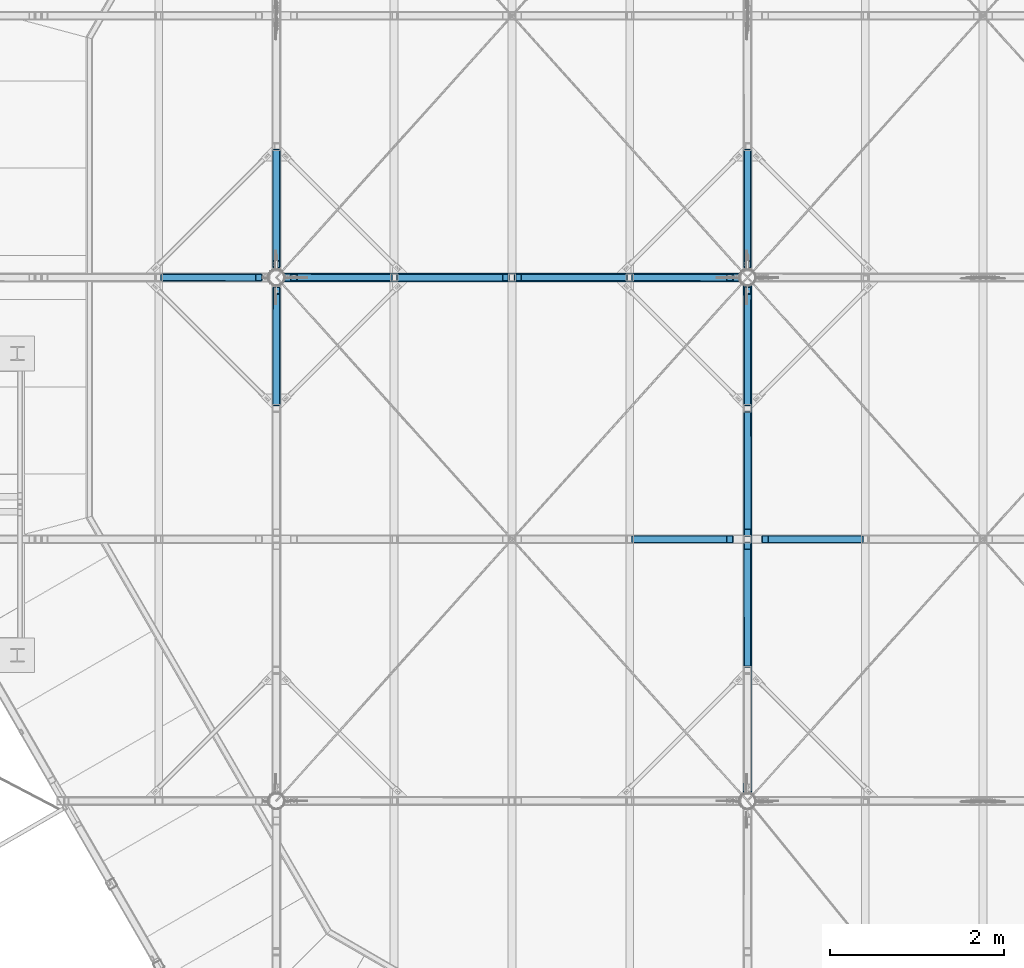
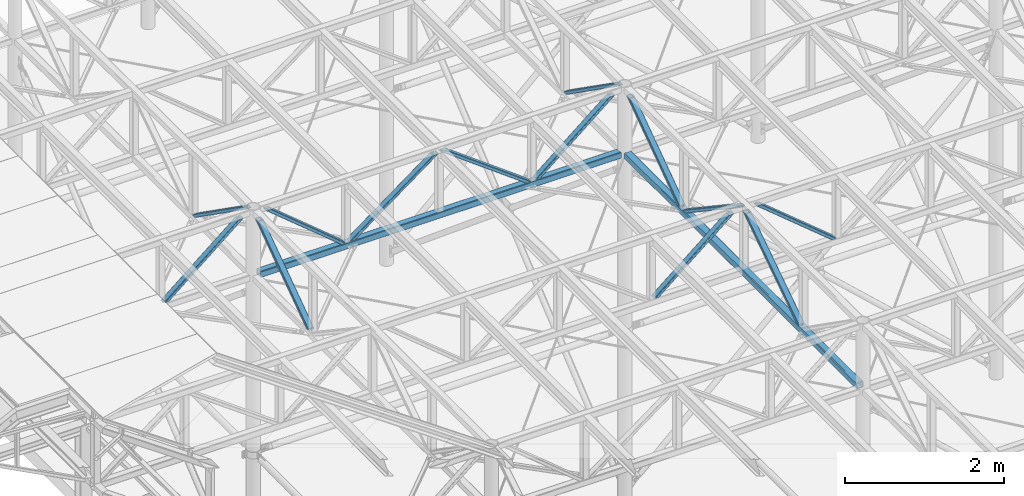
# One storey, part 44 of 132: 15 discrete accessories, 8 elements without a shape of their own.
"""IFC2X3 building model written with IfcOpenShell, lengths in millimetres."""

from ifc_helpers import new_model, si_unit, frame, origin_with_axes, origin_2d_with_axis, place, context, subcontext, project, spatial, hollow_rectangle, circle, extrude, boolean, halfspace, material, type_object, element, aggregate, save


model = new_model("IFC2X3")

# Units and contexts
model_context = context("Model", 3, precision=1e-05, world=origin_with_axes())
body_context = subcontext(model_context, "Body", "Model", "MODEL_VIEW")
ifc_project = project(units=[si_unit("LENGTHUNIT", "METRE", prefix="MILLI"), si_unit("AREAUNIT", "SQUARE_METRE"), si_unit("VOLUMEUNIT", "CUBIC_METRE"), si_unit("MASSUNIT", "GRAM", prefix="KILO"), si_unit("TIMEUNIT", "SECOND"), si_unit("PLANEANGLEUNIT", "RADIAN"), si_unit("SOLIDANGLEUNIT", "STERADIAN"), si_unit("THERMODYNAMICTEMPERATUREUNIT", "DEGREE_CELSIUS"), si_unit("LUMINOUSINTENSITYUNIT", "LUMEN")], contexts=[model_context])

# Site, building, storey
site_placement = place(None, origin_with_axes())
site = spatial("IfcSite", under=ifc_project, at=site_placement, Name="Budowa", CompositionType="ELEMENT")
building_placement = place(site_placement, origin_with_axes())
building = spatial("IfcBuilding", under=site, at=building_placement, Name="Undefined", CompositionType="ELEMENT")
storey_placement = place(building_placement, origin_with_axes())
storey = spatial("IfcBuildingStorey", under=building, at=storey_placement, Name="Undefined", CompositionType="ELEMENT", Elevation=0.0)

# Assembly, discrete accessory
assembly_1_placement = place(storey_placement, origin_with_axes())
assembly_1 = element("IfcElementAssembly", 1, at=assembly_1_placement, inside=storey, Name="Steel Assembly", AssemblyPlace="NOTDEFINED", PredefinedType="RIGID_FRAME")
ifc_material = material(Name="STEEL/S235")
discrete_accessory_type = type_object("IfcDiscreteAccessoryType", Name="BEAM")
discrete_accessory_1_placement = place(assembly_1_placement, frame((3884.0999999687, 12000.0000000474, 13830.0000000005), z_axis=(0.0, -1.0, 0.0), x_axis=(-0.77030791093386, 0.0, -0.637672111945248)))
solid_1 = boolean("DIFFERENCE", boolean("DIFFERENCE", extrude(hollow_rectangle(XDim=90.0, YDim=90.0, WallThickness=6.0, InnerFilletRadius=6.0, OuterFilletRadius=12.0, at=origin_2d_with_axis()), frame((1536.32046276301, -38.5153958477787, 3.71073838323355e-10), z_axis=(-0.637672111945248, -0.770307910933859, 0.0), x_axis=(0.0, 0.0, 1.0)), (0.0, 0.0, 1.0), 900.0), halfspace(frame((766.012551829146, 599.156716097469, 3.71073838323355e-10), z_axis=(-0.637672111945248, -0.770307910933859, 0.0), x_axis=(0.77030791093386, -0.637672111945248, 0.0)), True)), halfspace(frame((192.107651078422, -94.1204037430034, 3.71073838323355e-10), z_axis=(0.637672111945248, 0.770307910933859, 0.0), x_axis=(0.77030791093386, -0.637672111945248, 0.0)), True))
discrete_accessory_1 = element("IfcDiscreteAccessory", 2, at=discrete_accessory_1_placement, type_object=discrete_accessory_type, material=ifc_material, Name="BEAM", ObjectType="RHS90*50*5", context=body_context, shape_type="CSG", body=[
    boolean("DIFFERENCE", boolean("DIFFERENCE", boolean("DIFFERENCE", extrude(hollow_rectangle(XDim=50.0, YDim=90.0, WallThickness=5.0, InnerFilletRadius=7.5, OuterFilletRadius=12.5, at=origin_2d_with_axis()), frame((1532.27723418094, -9.9455317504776e-13, 0.0), z_axis=(-1.0, 0.0, 0.0), x_axis=(0.0, -1.0, 0.0)), (0.0, 0.0, 1.0), 1496.35), solid_1), halfspace(frame((1536.3204623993, -38.515395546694, 1000.0), z_axis=(-0.637672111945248, -0.770307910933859, 0.0), x_axis=(0.77030791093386, -0.637672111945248, 0.0)), True)), halfspace(frame((31.8836055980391, 38.5153955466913, 1000.0), z_axis=(0.637672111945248, 0.770307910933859, 0.0), x_axis=(-0.770307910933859, 0.637672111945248, 0.0)), True)),
])
aggregate(assembly_1, [discrete_accessory_1])

assembly_2_placement = place(storey_placement, origin_with_axes())
assembly_2 = element("IfcElementAssembly", 3, at=assembly_2_placement, inside=storey, Name="Steel Assembly", AssemblyPlace="NOTDEFINED", PredefinedType="RIGID_FRAME")
discrete_accessory_2_placement = place(assembly_2_placement, frame((9565.99999995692, 9000.00000004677, 13830.0), z_axis=(0.0, -1.0, 0.0), x_axis=(0.770567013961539, 0.0, -0.637358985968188)))
solid_2 = boolean("DIFFERENCE", boolean("DIFFERENCE", extrude(hollow_rectangle(XDim=90.0, YDim=90.0, WallThickness=6.0, InnerFilletRadius=6.0, OuterFilletRadius=12.0, at=origin_2d_with_axis()), frame((1537.1065565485, 38.528350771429, -6.22094376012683e-10), z_axis=(-0.637358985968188, 0.770567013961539, 0.0), x_axis=(-0.770567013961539, -0.637358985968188, 0.0)), (0.0, 0.0, 1.0), 900.0), halfspace(frame((1537.1065565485, 38.5283507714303, 999.999999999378), z_axis=(-0.637358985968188, 0.770567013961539, 0.0), x_axis=(-0.770567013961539, -0.637358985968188, 0.0)), True)), halfspace(frame((963.483469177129, 732.038663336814, 999.999999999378), z_axis=(0.637358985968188, -0.770567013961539, 0.0), x_axis=(0.770567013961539, 0.637358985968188, 0.0)), True))
discrete_accessory_2 = element("IfcDiscreteAccessory", 4, at=discrete_accessory_2_placement, type_object=discrete_accessory_type, material=ifc_material, Name="BEAM", ObjectType="RHS90*50*5", context=body_context, shape_type="CSG", body=[
    boolean("DIFFERENCE", boolean("DIFFERENCE", boolean("DIFFERENCE", extrude(hollow_rectangle(XDim=50.0, YDim=90.0, WallThickness=5.0, InnerFilletRadius=7.5, OuterFilletRadius=12.5, at=origin_2d_with_axis()), frame((1533.07734352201, 2.27373675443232e-12, 0.0), z_axis=(-1.0, 0.0, 0.0), x_axis=(0.0, -1.0, 0.0)), (0.0, 0.0, 1.0), 1497.18), solid_2), halfspace(frame((1537.1065565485, 38.5283507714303, 999.999999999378), z_axis=(-0.637358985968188, 0.770567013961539, 0.0), x_axis=(-0.770567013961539, -0.637358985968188, 0.0)), True)), halfspace(frame((31.867949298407, -38.5283506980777, 1000.0), z_axis=(0.637358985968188, -0.770567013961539, 0.0), x_axis=(0.770567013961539, 0.637358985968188, 0.0)), True)),
])
aggregate(assembly_2, [discrete_accessory_2])

assembly_3_placement = place(storey_placement, origin_with_axes())
assembly_3 = element("IfcElementAssembly", 5, at=assembly_3_placement, inside=storey, Name="Steel Assembly", AssemblyPlace="NOTDEFINED", PredefinedType="RIGID_FRAME")
discrete_accessory_3_placement = place(assembly_3_placement, frame((9283.99999993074, 9000.00000004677, 13830.0), z_axis=(0.0, -1.0, 0.0), x_axis=(-0.770567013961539, 0.0, -0.637358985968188)))
solid_3 = boolean("DIFFERENCE", boolean("DIFFERENCE", extrude(hollow_rectangle(XDim=90.0, YDim=90.0, WallThickness=6.0, InnerFilletRadius=6.0, OuterFilletRadius=12.0, at=origin_2d_with_axis()), frame((1537.1065565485, -38.5283507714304, -6.22094376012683e-10), z_axis=(-0.637358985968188, -0.770567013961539, 0.0), x_axis=(0.770567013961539, -0.637358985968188, 0.0)), (0.0, 0.0, 1.0), 900.0), halfspace(frame((1537.1065565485, -38.5283507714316, 999.999999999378), z_axis=(-0.637358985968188, -0.770567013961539, 0.0), x_axis=(0.770567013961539, -0.637358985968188, 0.0)), True)), halfspace(frame((963.483469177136, -732.038663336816, 999.999999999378), z_axis=(0.637358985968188, 0.770567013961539, 0.0), x_axis=(-0.770567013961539, 0.637358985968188, 0.0)), True))
discrete_accessory_3 = element("IfcDiscreteAccessory", 6, at=discrete_accessory_3_placement, type_object=discrete_accessory_type, material=ifc_material, Name="BEAM", ObjectType="RHS90*50*5", context=body_context, shape_type="CSG", body=[
    boolean("DIFFERENCE", boolean("DIFFERENCE", boolean("DIFFERENCE", extrude(hollow_rectangle(XDim=50.0, YDim=90.0, WallThickness=5.0, InnerFilletRadius=7.5, OuterFilletRadius=12.5, at=origin_2d_with_axis()), frame((1533.07734352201, 2.27373675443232e-12, 0.0), z_axis=(-1.0, 0.0, 0.0), x_axis=(0.0, -1.0, 0.0)), (0.0, 0.0, 1.0), 1497.18), solid_3), halfspace(frame((1537.1065565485, -38.5283507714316, 999.999999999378), z_axis=(-0.637358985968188, -0.770567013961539, 0.0), x_axis=(0.770567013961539, -0.637358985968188, 0.0)), True)), halfspace(frame((31.867949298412, 38.52835069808, 1000.0), z_axis=(0.637358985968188, 0.770567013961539, 0.0), x_axis=(-0.770567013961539, 0.637358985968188, 0.0)), True)),
])
aggregate(assembly_3, [discrete_accessory_3])

assembly_4_placement = place(storey_placement, origin_with_axes())
assembly_4 = element("IfcElementAssembly", 7, at=assembly_4_placement, inside=storey, Name="Steel Assembly", AssemblyPlace="NOTDEFINED", PredefinedType="RIGID_FRAME")
discrete_accessory_4_placement = place(assembly_4_placement, frame((4024.99999991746, 13499.8000000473, 12829.9999999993), z_axis=(1.0, 0.0, 0.0), x_axis=(0.0, -0.817796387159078, 0.575507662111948)))
solid_4 = boolean("DIFFERENCE", boolean("DIFFERENCE", extrude(hollow_rectangle(XDim=90.0, YDim=90.0, WallThickness=6.0, InnerFilletRadius=6.0, OuterFilletRadius=12.0, at=origin_2d_with_axis()), frame((28.6118238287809, -41.0049208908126, 2.20825313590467e-09), z_axis=(0.575507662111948, -0.817796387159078, 0.0), x_axis=(0.817796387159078, 0.575507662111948, 0.0)), (0.0, 0.0, 1.0), 900.0), halfspace(frame((28.6118238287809, -41.0049208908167, 1000.00000000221), z_axis=(0.575507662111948, -0.817796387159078, 0.0), x_axis=(0.817796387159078, 0.575507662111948, 0.0)), True)), halfspace(frame((546.568719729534, -777.021669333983, 1000.00000000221), z_axis=(-0.57550766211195, 0.817796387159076, 0.0), x_axis=(-0.817796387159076, -0.57550766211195, 0.0)), True))
discrete_accessory_4 = element("IfcDiscreteAccessory", 8, at=discrete_accessory_4_placement, type_object=discrete_accessory_type, material=ifc_material, Name="BEAM", ObjectType="RHS90*50*5", context=body_context, shape_type="CSG", body=[
    boolean("DIFFERENCE", boolean("DIFFERENCE", boolean("DIFFERENCE", extrude(hollow_rectangle(XDim=50.0, YDim=90.0, WallThickness=5.0, InnerFilletRadius=7.5, OuterFilletRadius=12.5, at=origin_2d_with_axis()), frame((1708.27858753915, 0.0, 0.0), z_axis=(-1.0, 0.0, 0.0), x_axis=(0.0, -1.0, 0.0)), (0.0, 0.0, 1.0), 1678.96), solid_4), halfspace(frame((1708.8209441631, 40.8898193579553, 1000.0), z_axis=(-0.57550766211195, 0.817796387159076, 0.0), x_axis=(-0.817796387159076, -0.57550766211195, 0.0)), True)), halfspace(frame((28.7753831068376, -40.8898193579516, 1000.0), z_axis=(0.575507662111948, -0.817796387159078, 0.0), x_axis=(0.817796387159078, 0.575507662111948, 0.0)), True)),
])
aggregate(assembly_4, [discrete_accessory_4])

assembly_5_placement = place(storey_placement, origin_with_axes())
assembly_5 = element("IfcElementAssembly", 9, at=assembly_5_placement, inside=storey, Name="Steel Assembly", AssemblyPlace="NOTDEFINED", PredefinedType="RIGID_FRAME")
discrete_accessory_5_placement = place(assembly_5_placement, frame((4024.99999991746, 10500.0000000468, 12829.9999999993), z_axis=(1.0, 0.0, 0.0), x_axis=(0.0, 0.817796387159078, 0.575507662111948)))
solid_5 = boolean("DIFFERENCE", boolean("DIFFERENCE", extrude(hollow_rectangle(XDim=90.0, YDim=90.0, WallThickness=6.0, InnerFilletRadius=6.0, OuterFilletRadius=12.0, at=origin_2d_with_axis()), frame((28.7753831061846, 40.8898193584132, 2.20825313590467e-09), z_axis=(0.575507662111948, 0.817796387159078, 0.0), x_axis=(-0.817796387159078, 0.575507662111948, 0.0)), (0.0, 0.0, 1.0), 900.0), halfspace(frame((28.7753831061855, 40.8898193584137, 1000.00000000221), z_axis=(0.575507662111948, 0.817796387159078, 0.0), x_axis=(-0.817796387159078, 0.575507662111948, 0.0)), True)), halfspace(frame((546.732279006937, 776.906567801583, 1000.00000000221), z_axis=(-0.575507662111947, -0.817796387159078, 0.0), x_axis=(0.817796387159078, -0.575507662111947, 0.0)), True))
discrete_accessory_5 = element("IfcDiscreteAccessory", 10, at=discrete_accessory_5_placement, type_object=discrete_accessory_type, material=ifc_material, Name="BEAM", ObjectType="RHS90*50*5", context=body_context, shape_type="CSG", body=[
    boolean("DIFFERENCE", boolean("DIFFERENCE", boolean("DIFFERENCE", extrude(hollow_rectangle(XDim=50.0, YDim=90.0, WallThickness=5.0, InnerFilletRadius=7.5, OuterFilletRadius=12.5, at=origin_2d_with_axis()), frame((1708.11339266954, 0.0, 0.0), z_axis=(-1.0, 0.0, 0.0), x_axis=(0.0, -1.0, 0.0)), (0.0, 0.0, 1.0), 1678.63), solid_5), halfspace(frame((1708.8209441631, -40.8898193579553, 1000.0), z_axis=(-0.575507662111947, -0.817796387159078, 0.0), x_axis=(0.817796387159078, -0.575507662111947, 0.0)), True)), halfspace(frame((28.7753831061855, 40.8898193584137, 1000.00000000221), z_axis=(0.575507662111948, 0.817796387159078, 0.0), x_axis=(-0.817796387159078, 0.575507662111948, 0.0)), True)),
])
aggregate(assembly_5, [discrete_accessory_5])

assembly_6_placement = place(storey_placement, origin_with_axes())
assembly_6 = element("IfcElementAssembly", 11, at=assembly_6_placement, inside=storey, Name="Steel Assembly", AssemblyPlace="NOTDEFINED", PredefinedType="RIGID_FRAME")
discrete_accessory_6_placement = place(assembly_6_placement, frame((9424.99999994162, 13499.8000000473, 12829.9999999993), z_axis=(1.0, 0.0, 0.0), x_axis=(0.0, -0.817796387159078, 0.575507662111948)))
solid_6 = boolean("DIFFERENCE", boolean("DIFFERENCE", extrude(hollow_rectangle(XDim=90.0, YDim=90.0, WallThickness=6.0, InnerFilletRadius=6.0, OuterFilletRadius=12.0, at=origin_2d_with_axis()), frame((28.6118238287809, -41.0049208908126, 2.20825313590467e-09), z_axis=(0.575507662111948, -0.817796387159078, 0.0), x_axis=(0.817796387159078, 0.575507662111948, 0.0)), (0.0, 0.0, 1.0), 900.0), halfspace(frame((28.6118238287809, -41.0049208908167, 1000.00000000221), z_axis=(0.575507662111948, -0.817796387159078, 0.0), x_axis=(0.817796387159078, 0.575507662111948, 0.0)), True)), halfspace(frame((546.568719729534, -777.021669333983, 1000.00000000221), z_axis=(-0.57550766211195, 0.817796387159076, 0.0), x_axis=(-0.817796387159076, -0.57550766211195, 0.0)), True))
discrete_accessory_6 = element("IfcDiscreteAccessory", 12, at=discrete_accessory_6_placement, type_object=discrete_accessory_type, material=ifc_material, Name="BEAM", ObjectType="RHS90*50*5", context=body_context, shape_type="CSG", body=[
    boolean("DIFFERENCE", boolean("DIFFERENCE", boolean("DIFFERENCE", extrude(hollow_rectangle(XDim=50.0, YDim=90.0, WallThickness=5.0, InnerFilletRadius=7.5, OuterFilletRadius=12.5, at=origin_2d_with_axis()), frame((1708.27858753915, 0.0, 0.0), z_axis=(-1.0, 0.0, 0.0), x_axis=(0.0, -1.0, 0.0)), (0.0, 0.0, 1.0), 1678.96), solid_6), halfspace(frame((1708.8209441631, 40.8898193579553, 1000.0), z_axis=(-0.57550766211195, 0.817796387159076, 0.0), x_axis=(-0.817796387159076, -0.57550766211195, 0.0)), True)), halfspace(frame((28.7753831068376, -40.8898193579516, 1000.0), z_axis=(0.575507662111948, -0.817796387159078, 0.0), x_axis=(0.817796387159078, 0.575507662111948, 0.0)), True)),
])
aggregate(assembly_6, [discrete_accessory_6])

# Assembly, discrete accessories
assembly_7_placement = place(storey_placement, origin_with_axes())
assembly_7 = element("IfcElementAssembly", 13, at=assembly_7_placement, inside=storey, Name="Steel Assembly", AssemblyPlace="NOTDEFINED", PredefinedType="RIGID_FRAME")
discrete_accessory_7_placement = place(assembly_7_placement, frame((9424.99999994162, 10500.0000000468, 12829.9999999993), z_axis=(1.0, 0.0, 0.0), x_axis=(0.0, 0.817796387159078, 0.575507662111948)))
solid_7 = boolean("DIFFERENCE", boolean("DIFFERENCE", extrude(hollow_rectangle(XDim=90.0, YDim=90.0, WallThickness=6.0, InnerFilletRadius=6.0, OuterFilletRadius=12.0, at=origin_2d_with_axis()), frame((28.7753831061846, 40.8898193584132, 2.20825313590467e-09), z_axis=(0.575507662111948, 0.817796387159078, 0.0), x_axis=(-0.817796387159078, 0.575507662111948, 0.0)), (0.0, 0.0, 1.0), 900.0), halfspace(frame((28.7753831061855, 40.8898193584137, 1000.00000000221), z_axis=(0.575507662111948, 0.817796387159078, 0.0), x_axis=(-0.817796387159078, 0.575507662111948, 0.0)), True)), halfspace(frame((546.732279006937, 776.906567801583, 1000.00000000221), z_axis=(-0.575507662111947, -0.817796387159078, 0.0), x_axis=(0.817796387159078, -0.575507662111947, 0.0)), True))
discrete_accessory_7 = element("IfcDiscreteAccessory", 14, at=discrete_accessory_7_placement, type_object=discrete_accessory_type, material=ifc_material, Name="BEAM", ObjectType="RHS90*50*5", context=body_context, shape_type="CSG", body=[
    boolean("DIFFERENCE", boolean("DIFFERENCE", boolean("DIFFERENCE", extrude(hollow_rectangle(XDim=50.0, YDim=90.0, WallThickness=5.0, InnerFilletRadius=7.5, OuterFilletRadius=12.5, at=origin_2d_with_axis()), frame((1708.11339266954, 0.0, 0.0), z_axis=(-1.0, 0.0, 0.0), x_axis=(0.0, -1.0, 0.0)), (0.0, 0.0, 1.0), 1678.63), solid_7), halfspace(frame((1708.8209441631, -40.8898193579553, 1000.0), z_axis=(-0.575507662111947, -0.817796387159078, 0.0), x_axis=(0.817796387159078, -0.575507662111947, 0.0)), True)), halfspace(frame((28.7753831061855, 40.8898193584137, 1000.00000000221), z_axis=(0.575507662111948, 0.817796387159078, 0.0), x_axis=(-0.817796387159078, 0.575507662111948, 0.0)), True)),
])
discrete_accessory_8_placement = place(assembly_7_placement, frame((9424.99999994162, 10499.8000000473, 12829.9999999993), z_axis=(1.0, 0.0, 0.0), x_axis=(0.0, -0.832050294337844, 0.554700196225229)))
solid_8 = boolean("DIFFERENCE", boolean("DIFFERENCE", extrude(hollow_rectangle(XDim=90.0, YDim=90.0, WallThickness=6.0, InnerFilletRadius=6.0, OuterFilletRadius=12.0, at=origin_2d_with_axis()), frame((27.5685997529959, -41.7134547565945, 2.20825313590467e-09), z_axis=(0.554700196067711, -0.832050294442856, 1.11090858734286e-10), x_axis=(0.832050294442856, 0.554700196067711, 1.66635594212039e-10)), (0.0, 0.0, 1.0), 900.0), halfspace(frame((27.5685997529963, -41.7134547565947, 1000.00000000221), z_axis=(0.554700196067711, -0.832050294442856, 1.11090858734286e-10), x_axis=(0.832050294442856, 0.554700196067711, 1.66635594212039e-10)), True)), halfspace(frame((526.798776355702, -790.558719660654, 1000.00000000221), z_axis=(-0.554700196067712, 0.832050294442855, -1.1109021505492e-10), x_axis=(-0.832050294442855, -0.554700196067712, -1.66634890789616e-10)), True))
solid_9 = boolean("DIFFERENCE", boolean("DIFFERENCE", extrude(hollow_rectangle(XDim=90.0, YDim=90.0, WallThickness=6.0, InnerFilletRadius=6.0, OuterFilletRadius=12.0, at=origin_2d_with_axis()), frame((1275.64404125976, 790.336839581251, 2.20825313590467e-09), z_axis=(0.554700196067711, -0.832050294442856, 1.11090858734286e-10), x_axis=(0.832050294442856, 0.554700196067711, 1.66635594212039e-10)), (0.0, 0.0, 1.0), 900.0), halfspace(frame((1275.64404125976, 790.33683958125, 1000.00000000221), z_axis=(0.554700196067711, -0.832050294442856, 1.11090858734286e-10), x_axis=(0.832050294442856, 0.554700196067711, 1.66635594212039e-10)), True)), halfspace(frame((1774.87421786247, 41.4915746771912, 1000.00000000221), z_axis=(-0.554700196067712, 0.832050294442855, -1.1109021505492e-10), x_axis=(-0.832050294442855, -0.554700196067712, -1.66634890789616e-10)), True))
discrete_accessory_8 = element("IfcDiscreteAccessory", 15, at=discrete_accessory_8_placement, type_object=discrete_accessory_type, material=ifc_material, Name="BEAM", ObjectType="RHS90*50*5", context=body_context, shape_type="CSG", body=[
    boolean("DIFFERENCE", boolean("DIFFERENCE", boolean("DIFFERENCE", boolean("DIFFERENCE", extrude(hollow_rectangle(XDim=50.0, YDim=90.0, WallThickness=5.0, InnerFilletRadius=7.5, OuterFilletRadius=12.5, at=origin_2d_with_axis()), frame((1763.05910368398, 0.0, 0.0), z_axis=(-1.0, 0.0, 0.0), x_axis=(0.0, -1.0, 0.0)), (0.0, 0.0, 1.0), 1723.34), solid_8), solid_9), halfspace(frame((1775.04062824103, 41.6025147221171, 999.999999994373), z_axis=(-0.554700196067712, 0.832050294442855, -1.1109021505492e-10), x_axis=(-0.832050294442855, -0.554700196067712, -1.66634890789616e-10)), True)), halfspace(frame((27.7350096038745, -41.6025147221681, 1000.00000000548), z_axis=(0.554700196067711, -0.832050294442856, 1.11090858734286e-10), x_axis=(0.832050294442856, 0.554700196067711, 1.66635594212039e-10)), True)),
])
discrete_accessory_9_placement = place(assembly_7_placement, frame((9424.99999994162, 7500.00000004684, 12829.9999999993), z_axis=(1.0, 0.0, 0.0), x_axis=(0.0, 0.832050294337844, 0.554700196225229)))
solid_10 = boolean("DIFFERENCE", boolean("DIFFERENCE", extrude(hollow_rectangle(XDim=90.0, YDim=90.0, WallThickness=6.0, InnerFilletRadius=6.0, OuterFilletRadius=12.0, at=origin_2d_with_axis()), frame((1275.81045145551, -790.447779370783, -2.51850795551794e-07), z_axis=(0.554700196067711, 0.832050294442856, -1.11090858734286e-10), x_axis=(-0.832050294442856, 0.554700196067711, 1.66634595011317e-10)), (0.0, 0.0, 1.0), 900.0), halfspace(frame((1275.81045165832, -790.447779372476, 999.999999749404), z_axis=(0.554700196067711, 0.832050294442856, -1.11090858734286e-10), x_axis=(-0.832050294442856, 0.554700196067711, 1.66634595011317e-10)), True)), halfspace(frame((1775.04062811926, -41.6025143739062, 999.999999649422), z_axis=(-0.554700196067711, -0.832050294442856, 1.11091980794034e-10), x_axis=(0.832050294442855, -0.554700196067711, -1.66634436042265e-10)), True))
solid_11 = boolean("DIFFERENCE", boolean("DIFFERENCE", extrude(hollow_rectangle(XDim=90.0, YDim=90.0, WallThickness=6.0, InnerFilletRadius=6.0, OuterFilletRadius=12.0, at=origin_2d_with_axis()), frame((27.7350097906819, 41.6025147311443, -4.89933715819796e-09), z_axis=(0.554700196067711, 0.832050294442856, -1.11090858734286e-10), x_axis=(-0.832050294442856, 0.554700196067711, 1.66634595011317e-10)), (0.0, 0.0, 1.0), 900.0), halfspace(frame((27.7350099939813, 41.6025147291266, 999.999999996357), z_axis=(0.554700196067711, 0.832050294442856, -1.11090858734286e-10), x_axis=(-0.832050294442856, 0.554700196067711, 1.66634595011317e-10)), True)), halfspace(frame((526.965186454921, 790.447779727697, 999.999999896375), z_axis=(-0.554700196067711, -0.832050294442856, 1.11091980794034e-10), x_axis=(0.832050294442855, -0.554700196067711, -1.66634436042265e-10)), True))
discrete_accessory_9 = element("IfcDiscreteAccessory", 16, at=discrete_accessory_9_placement, type_object=discrete_accessory_type, material=ifc_material, Name="BEAM", ObjectType="RHS90*50*5", context=body_context, shape_type="CSG", body=[
    boolean("DIFFERENCE", boolean("DIFFERENCE", boolean("DIFFERENCE", boolean("DIFFERENCE", extrude(hollow_rectangle(XDim=50.0, YDim=90.0, WallThickness=5.0, InnerFilletRadius=7.5, OuterFilletRadius=12.5, at=origin_2d_with_axis()), frame((1763.05910368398, 0.0, 0.0), z_axis=(-1.0, 0.0, 0.0), x_axis=(0.0, -1.0, 0.0)), (0.0, 0.0, 1.0), 1723.34), solid_10), solid_11), halfspace(frame((1775.04062811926, -41.6025143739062, 999.999999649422), z_axis=(-0.554700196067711, -0.832050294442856, 1.11091980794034e-10), x_axis=(0.832050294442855, -0.554700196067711, -1.66634436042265e-10)), True)), halfspace(frame((27.7350099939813, 41.6025147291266, 999.999999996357), z_axis=(0.554700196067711, 0.832050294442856, -1.11090858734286e-10), x_axis=(-0.832050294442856, 0.554700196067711, 1.66634595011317e-10)), True)),
])
discrete_accessory_10_placement = place(assembly_7_placement, frame((9424.99999994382, 6088.90000004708, 12830.0), z_axis=(1.0, 0.0, 0.0), x_axis=(0.0, 1.0, 0.0)))
discrete_accessory_10 = element("IfcDiscreteAccessory", 17, at=discrete_accessory_10_placement, type_object=discrete_accessory_type, material=ifc_material, Name="BEAM", ObjectType="SHS100*8", context=body_context, shape_type="CSG", body=[
    boolean("DIFFERENCE", boolean("DIFFERENCE", boolean("DIFFERENCE", boolean("DIFFERENCE", extrude(hollow_rectangle(XDim=100.0, YDim=100.0, WallThickness=8.0, InnerFilletRadius=8.0, OuterFilletRadius=16.0, at=origin_2d_with_axis()), frame((5911.09999999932, 0.0, 0.0), z_axis=(-1.0, 0.0, 0.0), x_axis=(0.0, -1.0, 0.0)), (0.0, 0.0, 1.0), 6000.0), extrude(circle(Radius=89.9, at=origin_2d_with_axis()), frame((5911.09999999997, 1950.0, 0.0), z_axis=(0.0, -1.0, 0.0), x_axis=(-1.0, 0.0, 0.0)), (0.0, 0.0, 1.0), 2100.0)), extrude(circle(Radius=89.9, at=origin_2d_with_axis()), frame((-88.9000000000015, 1950.0, -5.45696821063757e-12), z_axis=(0.0, -1.0, 0.0), x_axis=(-1.0, 0.0, 0.0)), (0.0, 0.0, 1.0), 2100.0)), halfspace(frame((5911.09999999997, -5339.0, 0.0), z_axis=(-1.0, 0.0, 0.0), x_axis=(0.0, 0.0, -1.0)), True)), halfspace(frame((-88.9000000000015, -5339.0, -5.45696821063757e-12), z_axis=(-1.0, 0.0, 0.0), x_axis=(0.0, 0.0, -1.0)), False)),
])
aggregate(assembly_7, [discrete_accessory_7, discrete_accessory_8, discrete_accessory_9, discrete_accessory_10])

assembly_8_placement = place(storey_placement, origin_with_axes())
assembly_8 = element("IfcElementAssembly", 18, at=assembly_8_placement, inside=storey, Name="Steel Assembly", AssemblyPlace="NOTDEFINED", PredefinedType="RIGID_FRAME")
discrete_accessory_11_placement = place(assembly_8_placement, frame((9283.99999993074, 12000.0000000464, 13830.0), z_axis=(0.0, -1.0, 0.0), x_axis=(-0.770567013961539, 0.0, -0.637358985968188)))
solid_12 = boolean("DIFFERENCE", boolean("DIFFERENCE", extrude(hollow_rectangle(XDim=90.0, YDim=90.0, WallThickness=6.0, InnerFilletRadius=6.0, OuterFilletRadius=12.0, at=origin_2d_with_axis()), frame((1537.1065565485, -38.5283507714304, -6.22094376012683e-10), z_axis=(-0.637358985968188, -0.770567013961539, 0.0), x_axis=(0.770567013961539, -0.637358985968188, 0.0)), (0.0, 0.0, 1.0), 900.0), halfspace(frame((1537.1065565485, -38.5283507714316, 999.999999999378), z_axis=(-0.637358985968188, -0.770567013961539, 0.0), x_axis=(0.770567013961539, -0.637358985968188, 0.0)), True)), halfspace(frame((963.483469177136, -732.038663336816, 999.999999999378), z_axis=(0.637358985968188, 0.770567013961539, 0.0), x_axis=(-0.770567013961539, 0.637358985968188, 0.0)), True))
discrete_accessory_11 = element("IfcDiscreteAccessory", 19, at=discrete_accessory_11_placement, type_object=discrete_accessory_type, material=ifc_material, Name="BEAM", ObjectType="RHS90*50*5", context=body_context, shape_type="CSG", body=[
    boolean("DIFFERENCE", boolean("DIFFERENCE", boolean("DIFFERENCE", extrude(hollow_rectangle(XDim=50.0, YDim=90.0, WallThickness=5.0, InnerFilletRadius=7.5, OuterFilletRadius=12.5, at=origin_2d_with_axis()), frame((1533.07734352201, 2.27373675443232e-12, 0.0), z_axis=(-1.0, 0.0, 0.0), x_axis=(0.0, -1.0, 0.0)), (0.0, 0.0, 1.0), 1497.18), solid_12), halfspace(frame((1537.1065565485, -38.5283507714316, 999.999999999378), z_axis=(-0.637358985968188, -0.770567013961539, 0.0), x_axis=(0.770567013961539, -0.637358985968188, 0.0)), True)), halfspace(frame((31.867949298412, 38.52835069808, 1000.0), z_axis=(0.637358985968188, 0.770567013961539, 0.0), x_axis=(-0.770567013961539, 0.637358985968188, 0.0)), True)),
])
discrete_accessory_12_placement = place(assembly_8_placement, frame((4165.99999993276, 12000.0000000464, 13830.0), z_axis=(0.0, -1.0, 0.0), x_axis=(0.770567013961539, 0.0, -0.637358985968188)))
solid_13 = boolean("DIFFERENCE", boolean("DIFFERENCE", extrude(hollow_rectangle(XDim=90.0, YDim=90.0, WallThickness=6.0, InnerFilletRadius=6.0, OuterFilletRadius=12.0, at=origin_2d_with_axis()), frame((1537.1065565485, 38.528350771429, -6.22094376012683e-10), z_axis=(-0.637358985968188, 0.770567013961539, 0.0), x_axis=(-0.770567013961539, -0.637358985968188, 0.0)), (0.0, 0.0, 1.0), 900.0), halfspace(frame((1537.1065565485, 38.5283507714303, 999.999999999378), z_axis=(-0.637358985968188, 0.770567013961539, 0.0), x_axis=(-0.770567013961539, -0.637358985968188, 0.0)), True)), halfspace(frame((963.483469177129, 732.038663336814, 999.999999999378), z_axis=(0.637358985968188, -0.770567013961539, 0.0), x_axis=(0.770567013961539, 0.637358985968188, 0.0)), True))
discrete_accessory_12 = element("IfcDiscreteAccessory", 20, at=discrete_accessory_12_placement, type_object=discrete_accessory_type, material=ifc_material, Name="BEAM", ObjectType="RHS90*50*5", context=body_context, shape_type="CSG", body=[
    boolean("DIFFERENCE", boolean("DIFFERENCE", boolean("DIFFERENCE", extrude(hollow_rectangle(XDim=50.0, YDim=90.0, WallThickness=5.0, InnerFilletRadius=7.5, OuterFilletRadius=12.5, at=origin_2d_with_axis()), frame((1533.07734352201, 2.27373675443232e-12, 0.0), z_axis=(-1.0, 0.0, 0.0), x_axis=(0.0, -1.0, 0.0)), (0.0, 0.0, 1.0), 1497.18), solid_13), halfspace(frame((1537.1065565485, 38.5283507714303, 999.999999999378), z_axis=(-0.637358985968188, 0.770567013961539, 0.0), x_axis=(-0.770567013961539, -0.637358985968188, 0.0)), True)), halfspace(frame((31.867949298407, -38.5283506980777, 1000.0), z_axis=(0.637358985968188, -0.770567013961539, 0.0), x_axis=(0.770567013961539, 0.637358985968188, 0.0)), True)),
])
discrete_accessory_13_placement = place(assembly_8_placement, frame((6724.99999993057, 12000.0000000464, 13830.0), z_axis=(0.0, -1.0, 0.0), x_axis=(-0.803557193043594, 0.0, -0.595227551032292)))
solid_14 = boolean("DIFFERENCE", boolean("DIFFERENCE", extrude(hollow_rectangle(XDim=90.0, YDim=90.0, WallThickness=6.0, InnerFilletRadius=6.0, OuterFilletRadius=12.0, at=origin_2d_with_axis()), frame((565.466173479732, 763.379333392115, -6.22094376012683e-10), z_axis=(-0.595227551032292, -0.803557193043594, 0.0), x_axis=(0.803557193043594, -0.595227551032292, 0.0)), (0.0, 0.0, 1.0), 900.0), halfspace(frame((565.46617347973, 763.379333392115, 999.999999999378), z_axis=(-0.595227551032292, -0.803557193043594, 0.0), x_axis=(0.803557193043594, -0.595227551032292, 0.0)), True)), halfspace(frame((29.7613775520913, 40.1778596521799, 1000.0), z_axis=(0.595227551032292, 0.803557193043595, 0.0), x_axis=(-0.803557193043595, 0.595227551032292, 0.0)), True))
solid_15 = boolean("DIFFERENCE", boolean("DIFFERENCE", extrude(hollow_rectangle(XDim=90.0, YDim=90.0, WallThickness=6.0, InnerFilletRadius=6.0, OuterFilletRadius=12.0, at=origin_2d_with_axis()), frame((1650.26838408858, -40.1778605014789, -6.22094376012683e-10), z_axis=(-0.595227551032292, -0.803557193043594, 0.0), x_axis=(0.803557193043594, -0.595227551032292, 0.0)), (0.0, 0.0, 1.0), 900.0), halfspace(frame((1650.2683829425, -40.1778596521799, 1000.0), z_axis=(-0.595227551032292, -0.803557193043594, 0.0), x_axis=(0.803557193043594, -0.595227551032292, 0.0)), True)), halfspace(frame((1114.56358815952, -763.379334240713, 999.999999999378), z_axis=(0.595227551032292, 0.803557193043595, 0.0), x_axis=(-0.803557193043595, 0.595227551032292, 0.0)), True))
discrete_accessory_13 = element("IfcDiscreteAccessory", 21, at=discrete_accessory_13_placement, type_object=discrete_accessory_type, material=ifc_material, Name="BEAM", ObjectType="RHS90*50*5", context=body_context, shape_type="CSG", body=[
    boolean("DIFFERENCE", boolean("DIFFERENCE", boolean("DIFFERENCE", boolean("DIFFERENCE", extrude(hollow_rectangle(XDim=50.0, YDim=90.0, WallThickness=5.0, InnerFilletRadius=7.5, OuterFilletRadius=12.5, at=origin_2d_with_axis()), frame((1632.54994793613, 0.0, 0.0), z_axis=(-1.0, 0.0, 0.0), x_axis=(0.0, -1.0, 0.0)), (0.0, 0.0, 1.0), 1585.07), solid_14), solid_15), halfspace(frame((1650.2683829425, -40.1778596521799, 1000.0), z_axis=(-0.595227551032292, -0.803557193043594, 0.0), x_axis=(0.803557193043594, -0.595227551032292, 0.0)), True)), halfspace(frame((29.7613775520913, 40.1778596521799, 1000.0), z_axis=(0.595227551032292, 0.803557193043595, 0.0), x_axis=(-0.803557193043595, 0.595227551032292, 0.0)), True)),
])
discrete_accessory_14_placement = place(assembly_8_placement, frame((6724.99999993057, 12000.0000000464, 13830.0), z_axis=(0.0, -1.0, 0.0), x_axis=(0.803557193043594, 0.0, -0.595227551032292)))
solid_16 = boolean("DIFFERENCE", boolean("DIFFERENCE", extrude(hollow_rectangle(XDim=90.0, YDim=90.0, WallThickness=6.0, InnerFilletRadius=6.0, OuterFilletRadius=12.0, at=origin_2d_with_axis()), frame((1650.26838408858, 40.1778605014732, -6.22094376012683e-10), z_axis=(-0.595227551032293, 0.803557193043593, 0.0), x_axis=(-0.803557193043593, -0.595227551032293, 0.0)), (0.0, 0.0, 1.0), 900.0), halfspace(frame((1650.2683829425, 40.1778596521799, 1000.0), z_axis=(-0.595227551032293, 0.803557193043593, 0.0), x_axis=(-0.803557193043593, -0.595227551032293, 0.0)), True)), halfspace(frame((1114.56358815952, 763.379334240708, 999.999999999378), z_axis=(0.595227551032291, -0.803557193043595, 0.0), x_axis=(0.803557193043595, 0.595227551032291, 0.0)), True))
solid_17 = boolean("DIFFERENCE", boolean("DIFFERENCE", extrude(hollow_rectangle(XDim=90.0, YDim=90.0, WallThickness=6.0, InnerFilletRadius=6.0, OuterFilletRadius=12.0, at=origin_2d_with_axis()), frame((565.46617347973, -763.379333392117, -6.22094376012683e-10), z_axis=(-0.595227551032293, 0.803557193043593, 0.0), x_axis=(-0.803557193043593, -0.595227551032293, 0.0)), (0.0, 0.0, 1.0), 900.0), halfspace(frame((565.46617347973, -763.37933339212, 999.999999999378), z_axis=(-0.595227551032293, 0.803557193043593, 0.0), x_axis=(-0.803557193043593, -0.595227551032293, 0.0)), True)), halfspace(frame((29.7613775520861, -40.1778596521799, 1000.0), z_axis=(0.595227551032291, -0.803557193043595, 0.0), x_axis=(0.803557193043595, 0.595227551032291, 0.0)), True))
discrete_accessory_14 = element("IfcDiscreteAccessory", 22, at=discrete_accessory_14_placement, type_object=discrete_accessory_type, material=ifc_material, Name="BEAM", ObjectType="RHS90*50*5", context=body_context, shape_type="CSG", body=[
    boolean("DIFFERENCE", boolean("DIFFERENCE", boolean("DIFFERENCE", boolean("DIFFERENCE", extrude(hollow_rectangle(XDim=50.0, YDim=90.0, WallThickness=5.0, InnerFilletRadius=7.5, OuterFilletRadius=12.5, at=origin_2d_with_axis()), frame((1632.54994793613, 0.0, 0.0), z_axis=(-1.0, 0.0, 0.0), x_axis=(0.0, -1.0, 0.0)), (0.0, 0.0, 1.0), 1585.07), solid_16), solid_17), halfspace(frame((1650.2683829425, 40.1778596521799, 1000.0), z_axis=(-0.595227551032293, 0.803557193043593, 0.0), x_axis=(-0.803557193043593, -0.595227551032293, 0.0)), True)), halfspace(frame((29.7613775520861, -40.1778596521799, 1000.0), z_axis=(0.595227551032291, -0.803557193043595, 0.0), x_axis=(0.803557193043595, 0.595227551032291, 0.0)), True)),
])
discrete_accessory_15_placement = place(assembly_8_placement, frame((4113.99999993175, 12000.000000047, 12830.0), z_axis=(0.0, -1.0, 0.0), x_axis=(1.0, 0.0, 0.0)))
discrete_accessory_15 = element("IfcDiscreteAccessory", 23, at=discrete_accessory_15_placement, type_object=discrete_accessory_type, material=ifc_material, Name="BEAM", ObjectType="SHS100*8", context=body_context, shape_type="CSG", body=[
    boolean("DIFFERENCE", boolean("DIFFERENCE", boolean("DIFFERENCE", boolean("DIFFERENCE", extrude(hollow_rectangle(XDim=100.0, YDim=100.0, WallThickness=8.0, InnerFilletRadius=8.0, OuterFilletRadius=16.0, at=origin_2d_with_axis()), frame((5311.00000001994, 0.0, 0.0), z_axis=(-1.0, 0.0, 0.0), x_axis=(0.0, -1.0, 0.0)), (0.0, 0.0, 1.0), 5400.0), extrude(circle(Radius=89.9, at=origin_2d_with_axis()), frame((5311.00000001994, 1950.0, 7.27595761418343e-12), z_axis=(0.0, -1.0, 0.0), x_axis=(0.0, 0.0, 1.0)), (0.0, 0.0, 1.0), 2100.0)), extrude(circle(Radius=89.9, at=origin_2d_with_axis()), frame((-89.0000000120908, 1950.0, 1.09139364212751e-11), z_axis=(0.0, -1.0, 0.0), x_axis=(0.0, 0.0, 1.0)), (0.0, 0.0, 1.0), 2100.0)), halfspace(frame((5311.00000001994, -5339.0, 7.27595761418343e-12), z_axis=(-1.0, 0.0, 0.0), x_axis=(0.0, 0.0, -1.0)), True)), halfspace(frame((-89.0000000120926, -5339.0, 1.09139364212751e-11), z_axis=(-1.0, 0.0, 0.0), x_axis=(0.0, 0.0, -1.0)), False)),
])
aggregate(assembly_8, [discrete_accessory_11, discrete_accessory_12, discrete_accessory_13, discrete_accessory_14, discrete_accessory_15])

save(model, "model.ifc")
